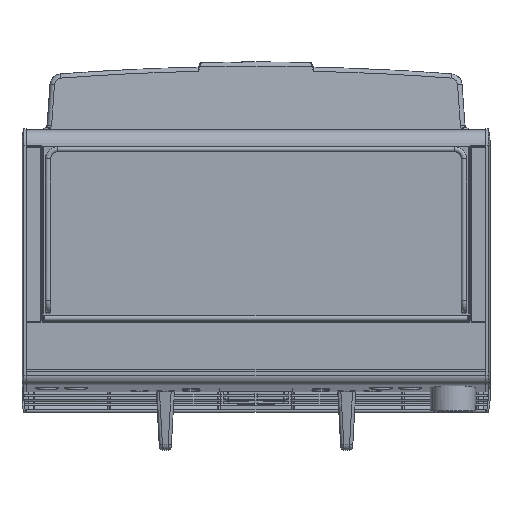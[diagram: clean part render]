
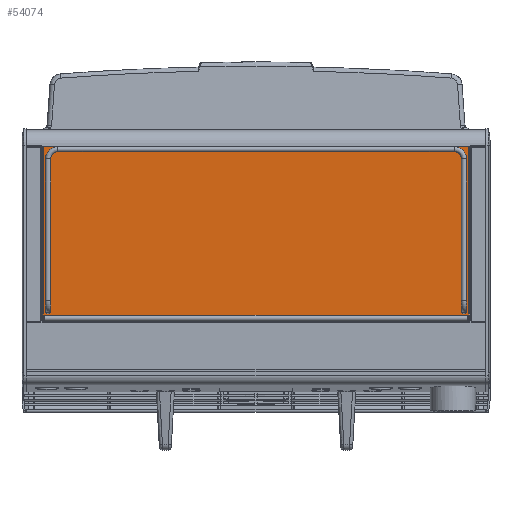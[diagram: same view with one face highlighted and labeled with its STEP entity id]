
A CAD part, top view. The second image highlights one B-rep face of the part: STEP entity #54074.
In plain terms, the highlighted planar face has unit normal (0, -0.026, 1).
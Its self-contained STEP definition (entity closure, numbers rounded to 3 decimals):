
#465=ELLIPSE('',#58321,4.001,4.);
#468=ELLIPSE('',#58325,4.001,4.);
#469=ELLIPSE('',#58332,4.026,4.);
#470=ELLIPSE('',#58344,4.026,4.);
#2311=LINE('',#88517,#6444);
#2315=LINE('',#88525,#6448);
#2323=LINE('',#88544,#6456);
#2328=LINE('',#88556,#6461);
#2421=LINE('',#89248,#6554);
#2430=LINE('',#89269,#6563);
#2434=LINE('',#89280,#6567);
#2435=LINE('',#89282,#6568);
#2465=LINE('',#89336,#6598);
#2486=LINE('',#89377,#6619);
#2493=LINE('',#89395,#6626);
#2494=LINE('',#89397,#6627);
#6444=VECTOR('',#67570,2.2);
#6448=VECTOR('',#67574,2.2);
#6456=VECTOR('',#67590,269.842);
#6461=VECTOR('',#67601,269.842);
#6554=VECTOR('',#67876,2.3);
#6563=VECTOR('',#67893,9.003);
#6567=VECTOR('',#67905,652.);
#6568=VECTOR('',#67908,9.003);
#6598=VECTOR('',#67960,2.3);
#6619=VECTOR('',#68001,0.046);
#6626=VECTOR('',#68024,0.046);
#6627=VECTOR('',#68027,661.);
#10970=PLANE('',#58486);
#12217=FACE_BOUND('',#17233,.T.);
#12218=FACE_BOUND('',#17234,.T.);
#12219=FACE_BOUND('',#17235,.T.);
#12220=FACE_BOUND('',#17236,.T.);
#12221=FACE_BOUND('',#17237,.T.);
#17233=EDGE_LOOP('',(#41079));
#17234=EDGE_LOOP('',(#41080));
#17235=EDGE_LOOP('',(#41081));
#17236=EDGE_LOOP('',(#41082));
#17237=EDGE_LOOP('',(#41083,#41084,#41085,#41086,#41087,#41088,#41089,#41090,
#41091,#41092,#41093,#41094));
#24540=VERTEX_POINT('',#88467);
#24543=VERTEX_POINT('',#88474);
#24547=VERTEX_POINT('',#88485);
#24553=VERTEX_POINT('',#88503);
#24557=VERTEX_POINT('',#88514);
#24558=VERTEX_POINT('',#88516);
#24561=VERTEX_POINT('',#88522);
#24562=VERTEX_POINT('',#88524);
#24568=VERTEX_POINT('',#88540);
#24573=VERTEX_POINT('',#88554);
#24695=VERTEX_POINT('',#89247);
#24703=VERTEX_POINT('',#89268);
#24706=VERTEX_POINT('',#89278);
#24719=VERTEX_POINT('',#89334);
#24729=VERTEX_POINT('',#89376);
#24732=VERTEX_POINT('',#89393);
#30555=EDGE_CURVE('',#24540,#24540,#465,.T.);
#30558=EDGE_CURVE('',#24543,#24543,#468,.T.);
#30562=EDGE_CURVE('',#24547,#24547,#469,.T.);
#30568=EDGE_CURVE('',#24553,#24553,#470,.T.);
#30574=EDGE_CURVE('',#24558,#24557,#2311,.T.);
#30578=EDGE_CURVE('',#24562,#24561,#2315,.T.);
#30588=EDGE_CURVE('',#24562,#24568,#2323,.T.);
#30594=EDGE_CURVE('',#24573,#24557,#2328,.T.);
#30758=EDGE_CURVE('',#24568,#24695,#2421,.T.);
#30769=EDGE_CURVE('',#24561,#24703,#2430,.T.);
#30775=EDGE_CURVE('',#24703,#24706,#2434,.T.);
#30776=EDGE_CURVE('',#24706,#24558,#2435,.T.);
#30806=EDGE_CURVE('',#24719,#24573,#2465,.T.);
#30827=EDGE_CURVE('',#24729,#24695,#2486,.T.);
#30836=EDGE_CURVE('',#24719,#24732,#2493,.T.);
#30837=EDGE_CURVE('',#24729,#24732,#2494,.T.);
#41079=ORIENTED_EDGE('',*,*,#30555,.T.);
#41080=ORIENTED_EDGE('',*,*,#30558,.T.);
#41081=ORIENTED_EDGE('',*,*,#30562,.T.);
#41082=ORIENTED_EDGE('',*,*,#30568,.T.);
#41083=ORIENTED_EDGE('',*,*,#30588,.F.);
#41084=ORIENTED_EDGE('',*,*,#30578,.T.);
#41085=ORIENTED_EDGE('',*,*,#30769,.T.);
#41086=ORIENTED_EDGE('',*,*,#30775,.T.);
#41087=ORIENTED_EDGE('',*,*,#30776,.T.);
#41088=ORIENTED_EDGE('',*,*,#30574,.T.);
#41089=ORIENTED_EDGE('',*,*,#30594,.F.);
#41090=ORIENTED_EDGE('',*,*,#30806,.F.);
#41091=ORIENTED_EDGE('',*,*,#30836,.T.);
#41092=ORIENTED_EDGE('',*,*,#30837,.F.);
#41093=ORIENTED_EDGE('',*,*,#30827,.T.);
#41094=ORIENTED_EDGE('',*,*,#30758,.F.);
#54074=ADVANCED_FACE('',(#12217,#12218,#12219,#12220,#12221),#10970,.F.);
#58321=AXIS2_PLACEMENT_3D('',#88468,#67510,#67511);
#58325=AXIS2_PLACEMENT_3D('',#88475,#67518,#67519);
#58332=AXIS2_PLACEMENT_3D('',#88486,#67532,#67533);
#58344=AXIS2_PLACEMENT_3D('',#88504,#67556,#67557);
#58486=AXIS2_PLACEMENT_3D('',#89396,#68025,#68026);
#67510=DIRECTION('center_axis',(0.,0.026,-1.));
#67511=DIRECTION('ref_axis',(0.,1.,0.026));
#67518=DIRECTION('center_axis',(0.,0.026,-1.));
#67519=DIRECTION('ref_axis',(0.,1.,0.026));
#67532=DIRECTION('center_axis',(0.,0.026,-1.));
#67533=DIRECTION('ref_axis',(0.,1.,0.026));
#67556=DIRECTION('center_axis',(0.,0.026,-1.));
#67557=DIRECTION('ref_axis',(0.,1.,0.026));
#67570=DIRECTION('',(1.,0.,0.));
#67574=DIRECTION('',(1.,0.,0.));
#67590=DIRECTION('',(0.,1.,0.026));
#67601=DIRECTION('',(0.,-1.,-0.026));
#67876=DIRECTION('',(-1.,0.,0.));
#67893=DIRECTION('',(0.,1.,0.026));
#67905=DIRECTION('',(1.,0.,0.));
#67908=DIRECTION('',(0.,-1.,-0.026));
#67960=DIRECTION('',(-1.,0.,0.));
#68001=DIRECTION('',(0.,-1.,-0.026));
#68024=DIRECTION('',(0.,1.,0.026));
#68025=DIRECTION('center_axis',(0.,0.026,-1.));
#68026=DIRECTION('ref_axis',(0.,1.,0.026));
#68027=DIRECTION('',(1.,0.,0.));
#88467=CARTESIAN_POINT('',(-200.,400.9,544.764));
#88468=CARTESIAN_POINT('Origin',(-200.,404.9,544.868));
#88474=CARTESIAN_POINT('',(200.,400.9,544.764));
#88475=CARTESIAN_POINT('Origin',(200.,404.9,544.868));
#88485=CARTESIAN_POINT('',(321.,150.8,538.215));
#88486=CARTESIAN_POINT('Origin',(321.,154.824,538.32));
#88503=CARTESIAN_POINT('',(-321.,150.8,538.215));
#88504=CARTESIAN_POINT('Origin',(-321.,154.824,538.32));
#88514=CARTESIAN_POINT('',(328.2,139.8,537.927));
#88516=CARTESIAN_POINT('',(326.,139.8,537.927));
#88517=CARTESIAN_POINT('',(0.,139.8,537.927));
#88522=CARTESIAN_POINT('',(-326.,139.8,537.927));
#88524=CARTESIAN_POINT('',(-328.2,139.8,537.927));
#88525=CARTESIAN_POINT('',(0.,139.8,537.927));
#88540=CARTESIAN_POINT('',(-328.2,409.55,544.99));
#88544=CARTESIAN_POINT('',(-328.2,274.675,541.458));
#88554=CARTESIAN_POINT('',(328.2,409.55,544.99));
#88556=CARTESIAN_POINT('',(328.2,138.643,537.896));
#89247=CARTESIAN_POINT('',(-330.5,409.55,544.99));
#89248=CARTESIAN_POINT('',(-177.,409.55,544.99));
#89268=CARTESIAN_POINT('',(-326.,148.8,538.162));
#89269=CARTESIAN_POINT('',(-326.,142.062,537.986));
#89278=CARTESIAN_POINT('',(326.,148.8,538.162));
#89280=CARTESIAN_POINT('',(0.,148.8,538.162));
#89282=CARTESIAN_POINT('',(326.,142.062,537.986));
#89334=CARTESIAN_POINT('',(330.5,409.55,544.99));
#89336=CARTESIAN_POINT('',(164.9,409.55,544.99));
#89376=CARTESIAN_POINT('',(-330.5,409.596,544.991));
#89377=CARTESIAN_POINT('',(-330.5,139.8,537.927));
#89393=CARTESIAN_POINT('',(330.5,409.596,544.991));
#89395=CARTESIAN_POINT('',(330.5,139.8,537.927));
#89396=CARTESIAN_POINT('Origin',(0.,139.8,537.927));
#89397=CARTESIAN_POINT('',(0.,409.596,544.991));
